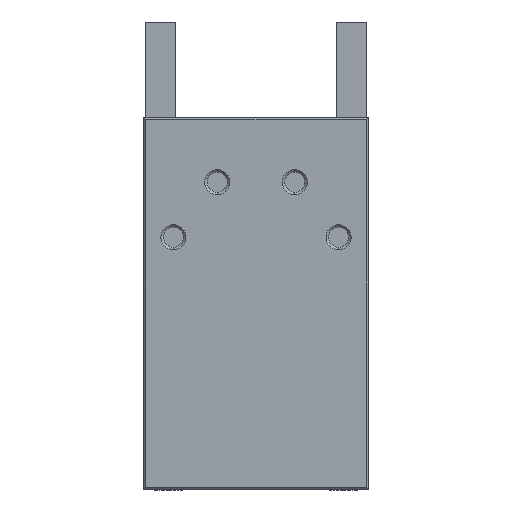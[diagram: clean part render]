
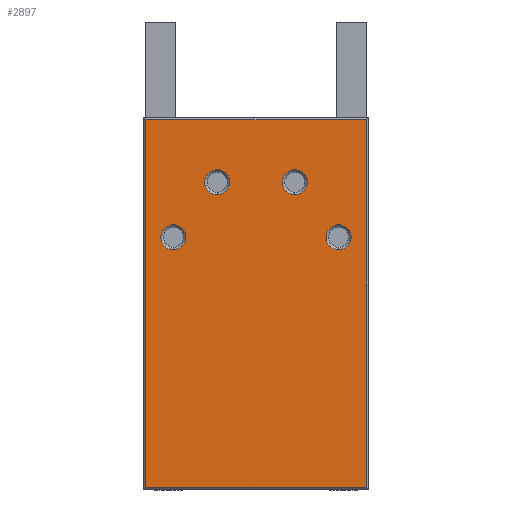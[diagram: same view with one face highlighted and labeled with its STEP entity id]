
A CAD part, front view. The second image highlights one B-rep face of the part: STEP entity #2897.
In plain terms, the highlighted planar face has unit normal (0, -1, 0).
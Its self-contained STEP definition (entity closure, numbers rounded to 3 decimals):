
#488 = EDGE_CURVE ( 'NONE', #6594, #6582, #4101, .T. ) ;
#492 = EDGE_CURVE ( 'NONE', #6529, #6400, #4110, .T. ) ;
#493 = EDGE_CURVE ( 'NONE', #6473, #6485, #4111, .T. ) ;
#494 = EDGE_CURVE ( 'NONE', #6495, #6371, #4112, .T. ) ;
#495 = EDGE_CURVE ( 'NONE', #6248, #6321, #4113, .T. ) ;
#545 = EDGE_CURVE ( 'NONE', #6577, #6594, #4183, .T. ) ;
#574 = EDGE_CURVE ( 'NONE', #6582, #6542, #9316, .T. ) ;
#584 = EDGE_CURVE ( 'NONE', #6577, #6542, #9333, .T. ) ;
#875 = CIRCLE ( 'NONE', #6799, 2.5 ) ;
#881 = CIRCLE ( 'NONE', #6801, 2.5 ) ;
#887 = CIRCLE ( 'NONE', #6803, 2.5 ) ;
#893 = CIRCLE ( 'NONE', #6805, 2.5 ) ;
#1657 = ORIENTED_EDGE ( 'NONE', *, *, #574, .T. ) ;
#1658 = ORIENTED_EDGE ( 'NONE', *, *, #488, .T. ) ;
#1659 = ORIENTED_EDGE ( 'NONE', *, *, #545, .T. ) ;
#1660 = ORIENTED_EDGE ( 'NONE', *, *, #584, .F. ) ;
#1661 = ORIENTED_EDGE ( 'NONE', *, *, #492, .T. ) ;
#1662 = ORIENTED_EDGE ( 'NONE', *, *, #1766, .T. ) ;
#1663 = ORIENTED_EDGE ( 'NONE', *, *, #493, .T. ) ;
#1664 = ORIENTED_EDGE ( 'NONE', *, *, #1762, .T. ) ;
#1665 = ORIENTED_EDGE ( 'NONE', *, *, #494, .T. ) ;
#1666 = ORIENTED_EDGE ( 'NONE', *, *, #1758, .T. ) ;
#1667 = ORIENTED_EDGE ( 'NONE', *, *, #495, .T. ) ;
#1668 = ORIENTED_EDGE ( 'NONE', *, *, #1754, .T. ) ;
#1754 = EDGE_CURVE ( 'NONE', #6321, #6248, #875, .T. ) ;
#1758 = EDGE_CURVE ( 'NONE', #6371, #6495, #881, .T. ) ;
#1762 = EDGE_CURVE ( 'NONE', #6485, #6473, #887, .T. ) ;
#1766 = EDGE_CURVE ( 'NONE', #6400, #6529, #893, .T. ) ;
#2698 = AXIS2_PLACEMENT_3D ( 'NONE', #5140, #5139, #5138 ) ;
#2699 = AXIS2_PLACEMENT_3D ( 'NONE', #5136, #5135, #5134 ) ;
#2700 = AXIS2_PLACEMENT_3D ( 'NONE', #5133, #5132, #5131 ) ;
#2701 = AXIS2_PLACEMENT_3D ( 'NONE', #5129, #5128, #5126 ) ;
#2897 = ADVANCED_FACE ( 'NONE', ( #12014, #12015, #12016, #12017, #12018 ), #8227, .T. ) ;
#3364 = EDGE_LOOP ( 'NONE', ( #1660, #1659, #1658, #1657 ) ) ;
#3365 = EDGE_LOOP ( 'NONE', ( #1662, #1661 ) ) ;
#3366 = EDGE_LOOP ( 'NONE', ( #1664, #1663 ) ) ;
#3367 = EDGE_LOOP ( 'NONE', ( #1666, #1665 ) ) ;
#3368 = EDGE_LOOP ( 'NONE', ( #1668, #1667 ) ) ;
#4101 = LINE ( 'NONE', #5151, #4103 ) ;
#4103 = VECTOR ( 'NONE', #5149, 1000. ) ;
#4110 = CIRCLE ( 'NONE', #2698, 2.5 ) ;
#4111 = CIRCLE ( 'NONE', #2699, 2.5 ) ;
#4112 = CIRCLE ( 'NONE', #2700, 2.5 ) ;
#4113 = CIRCLE ( 'NONE', #2701, 2.5 ) ;
#4183 = LINE ( 'NONE', #4900, #4184 ) ;
#4184 = VECTOR ( 'NONE', #4899, 1000. ) ;
#4792 = DIRECTION ( 'NONE',  ( -1., 0., 0. ) ) ;
#4793 = CARTESIAN_POINT ( 'NONE',  ( -1126.997, -690.399, -48.75 ) ) ;
#4823 = DIRECTION ( 'NONE',  ( 0., 0., -1. ) ) ;
#4824 = CARTESIAN_POINT ( 'NONE',  ( -1137.767, -690.399, 25.25 ) ) ;
#4899 = DIRECTION ( 'NONE',  ( 0., 0., 1. ) ) ;
#4900 = CARTESIAN_POINT ( 'NONE',  ( -1093.767, -690.399, 25.25 ) ) ;
#5126 = DIRECTION ( 'NONE',  ( 0., 0., -1. ) ) ;
#5128 = DIRECTION ( 'NONE',  ( 0., 1., 0. ) ) ;
#5129 = CARTESIAN_POINT ( 'NONE',  ( -1123.517, -690.399, 12.25 ) ) ;
#5131 = DIRECTION ( 'NONE',  ( 0., 0., -1. ) ) ;
#5132 = DIRECTION ( 'NONE',  ( 0., 1., 0. ) ) ;
#5133 = CARTESIAN_POINT ( 'NONE',  ( -1132.267, -690.399, 1.25 ) ) ;
#5134 = DIRECTION ( 'NONE',  ( 0., 0., -1. ) ) ;
#5135 = DIRECTION ( 'NONE',  ( 0., 1., 0. ) ) ;
#5136 = CARTESIAN_POINT ( 'NONE',  ( -1099.267, -690.399, 1.25 ) ) ;
#5138 = DIRECTION ( 'NONE',  ( 0., 0., -1. ) ) ;
#5139 = DIRECTION ( 'NONE',  ( 0., 1., 0. ) ) ;
#5140 = CARTESIAN_POINT ( 'NONE',  ( -1108.017, -690.399, 12.25 ) ) ;
#5149 = DIRECTION ( 'NONE',  ( -1., 0., 0. ) ) ;
#5151 = CARTESIAN_POINT ( 'NONE',  ( -1138.267, -690.399, 24.75 ) ) ;
#6248 = VERTEX_POINT ( 'NONE', #12753 ) ;
#6321 = VERTEX_POINT ( 'NONE', #12670 ) ;
#6371 = VERTEX_POINT ( 'NONE', #12614 ) ;
#6400 = VERTEX_POINT ( 'NONE', #12579 ) ;
#6473 = VERTEX_POINT ( 'NONE', #12495 ) ;
#6485 = VERTEX_POINT ( 'NONE', #12481 ) ;
#6495 = VERTEX_POINT ( 'NONE', #12469 ) ;
#6529 = VERTEX_POINT ( 'NONE', #12430 ) ;
#6542 = VERTEX_POINT ( 'NONE', #12414 ) ;
#6577 = VERTEX_POINT ( 'NONE', #12373 ) ;
#6582 = VERTEX_POINT ( 'NONE', #12367 ) ;
#6594 = VERTEX_POINT ( 'NONE', #12353 ) ;
#6799 = AXIS2_PLACEMENT_3D ( 'NONE', #8602, #8601, #8597 ) ;
#6801 = AXIS2_PLACEMENT_3D ( 'NONE', #8555, #8551, #8549 ) ;
#6803 = AXIS2_PLACEMENT_3D ( 'NONE', #8515, #8512, #8509 ) ;
#6805 = AXIS2_PLACEMENT_3D ( 'NONE', #8481, #8477, #8475 ) ;
#8223 = DIRECTION ( 'NONE',  ( 0., 0., -1. ) ) ;
#8225 = DIRECTION ( 'NONE',  ( 0., -1., 0. ) ) ;
#8226 = CARTESIAN_POINT ( 'NONE',  ( -1138.267, -690.399, 25.25 ) ) ;
#8227 = PLANE ( 'NONE',  #10803 ) ;
#8475 = DIRECTION ( 'NONE',  ( 0., 0., -1. ) ) ;
#8477 = DIRECTION ( 'NONE',  ( 0., 1., 0. ) ) ;
#8481 = CARTESIAN_POINT ( 'NONE',  ( -1108.017, -690.399, 12.25 ) ) ;
#8509 = DIRECTION ( 'NONE',  ( 0., 0., -1. ) ) ;
#8512 = DIRECTION ( 'NONE',  ( 0., 1., 0. ) ) ;
#8515 = CARTESIAN_POINT ( 'NONE',  ( -1099.267, -690.399, 1.25 ) ) ;
#8549 = DIRECTION ( 'NONE',  ( 0., 0., -1. ) ) ;
#8551 = DIRECTION ( 'NONE',  ( 0., 1., 0. ) ) ;
#8555 = CARTESIAN_POINT ( 'NONE',  ( -1132.267, -690.399, 1.25 ) ) ;
#8597 = DIRECTION ( 'NONE',  ( 0., 0., -1. ) ) ;
#8601 = DIRECTION ( 'NONE',  ( 0., 1., 0. ) ) ;
#8602 = CARTESIAN_POINT ( 'NONE',  ( -1123.517, -690.399, 12.25 ) ) ;
#9316 = LINE ( 'NONE', #4824, #9317 ) ;
#9317 = VECTOR ( 'NONE', #4823, 1000. ) ;
#9333 = LINE ( 'NONE', #4793, #9335 ) ;
#9335 = VECTOR ( 'NONE', #4792, 1000. ) ;
#10803 = AXIS2_PLACEMENT_3D ( 'NONE', #8226, #8225, #8223 ) ;
#12014 = FACE_BOUND ( 'NONE', #3368, .T. ) ;
#12015 = FACE_BOUND ( 'NONE', #3367, .T. ) ;
#12016 = FACE_BOUND ( 'NONE', #3366, .T. ) ;
#12017 = FACE_BOUND ( 'NONE', #3365, .T. ) ;
#12018 = FACE_OUTER_BOUND ( 'NONE', #3364, .T. ) ;
#12353 = CARTESIAN_POINT ( 'NONE',  ( -1093.767, -690.399, 24.75 ) ) ;
#12367 = CARTESIAN_POINT ( 'NONE',  ( -1137.767, -690.399, 24.75 ) ) ;
#12373 = CARTESIAN_POINT ( 'NONE',  ( -1093.767, -690.399, -48.75 ) ) ;
#12414 = CARTESIAN_POINT ( 'NONE',  ( -1137.767, -690.399, -48.75 ) ) ;
#12430 = CARTESIAN_POINT ( 'NONE',  ( -1108.017, -690.399, 14.75 ) ) ;
#12469 = CARTESIAN_POINT ( 'NONE',  ( -1132.267, -690.399, 3.75 ) ) ;
#12481 = CARTESIAN_POINT ( 'NONE',  ( -1099.267, -690.399, -1.25 ) ) ;
#12495 = CARTESIAN_POINT ( 'NONE',  ( -1099.267, -690.399, 3.75 ) ) ;
#12579 = CARTESIAN_POINT ( 'NONE',  ( -1108.017, -690.399, 9.75 ) ) ;
#12614 = CARTESIAN_POINT ( 'NONE',  ( -1132.267, -690.399, -1.25 ) ) ;
#12670 = CARTESIAN_POINT ( 'NONE',  ( -1123.517, -690.399, 9.75 ) ) ;
#12753 = CARTESIAN_POINT ( 'NONE',  ( -1123.517, -690.399, 14.75 ) ) ;
